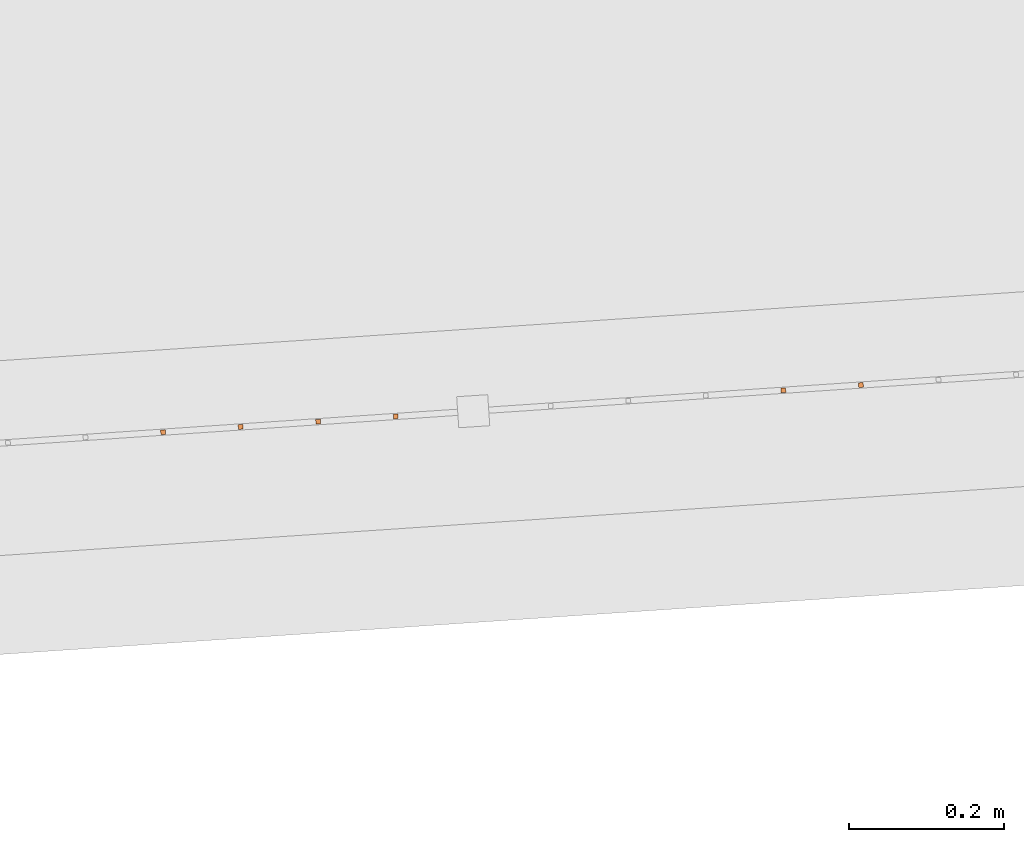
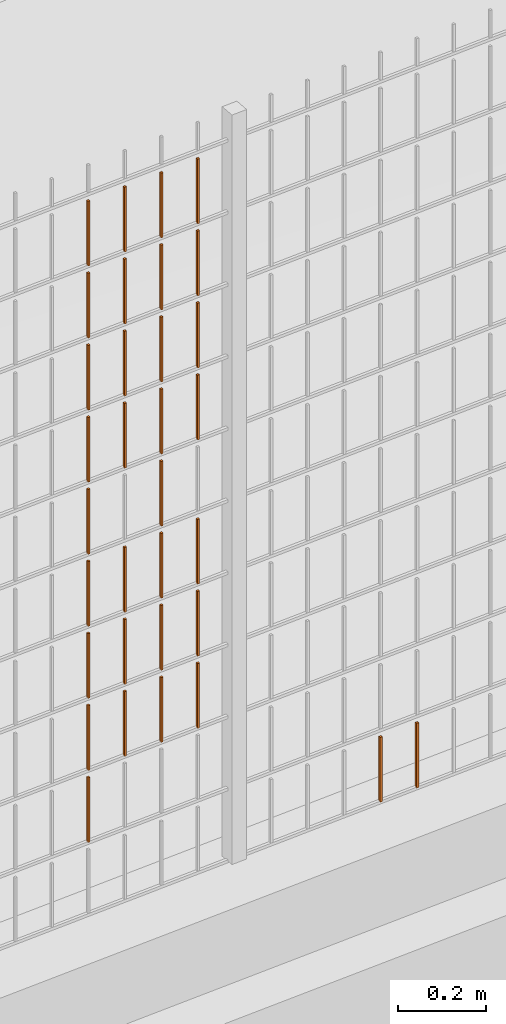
# One storey, part 329 of 1809: 33 proxies, 1 element without a shape of its own.
"""IFC2X3 building model written with IfcOpenShell, lengths in millimetres."""

import ifcopenshell
import ifcopenshell.guid

model = None  # the IFC model being written
_history = None  # IfcOwnerHistory: only IFC2X3 demands one
_inside = {}  # id of a spatial element -> (the spatial element, [elements in it])
_under = {}  # id of a project, library or spatial element -> (it, [spatial elements below it])
_declared = {}  # id of a project -> (the project, [libraries it declares])
_typed = {}  # id of a type object -> (the type object, [elements of that type])
_made_of = {}  # id of a material, layer set ... -> (it, [elements and type objects made of it])


def new_model(schema):
    """Start an empty IFC model of exactly this schema.

    Asked for "IFC4X3", IfcOpenShell would pick the latest addendum, in which some entities
    have other attributes; the version numbers below select the first issue.
    IFC2X3 requires an IfcOwnerHistory on every rooted entity: one is made here for all.
    """
    global model, _history
    if schema == "IFC4X3":
        model = ifcopenshell.file(schema_version=(4, 3, 0, 0))
    else:
        model = ifcopenshell.file(schema=schema)
    _inside.clear()
    _under.clear()
    _declared.clear()
    _typed.clear()
    _made_of.clear()
    _history = None
    if model.schema == "IFC2X3":
        org = make("IfcOrganization", Name="unknown")
        user = make(
            "IfcPersonAndOrganization",
            ThePerson=make("IfcPerson", FamilyName="unknown"),
            TheOrganization=org,
        )
        app = make(
            "IfcApplication",
            ApplicationDeveloper=org,
            Version="unknown",
            ApplicationFullName="unknown",
            ApplicationIdentifier="unknown",
        )
        _history = make(
            "IfcOwnerHistory",
            OwningUser=user,
            OwningApplication=app,
            ChangeAction="ADDED",
            CreationDate=0,
        )
    return model


def make(cls, **values):
    """One entity of the class cls with the attributes given. An attribute that is None is left unset."""
    return model.create_entity(
        cls, **{name: value for name, value in values.items() if value is not None}
    )


def entity(cls, *values):
    """Any entity or typed value of the class cls, its attributes in the order of the schema. None: left unset."""
    e = model.create_entity(cls)
    for i, value in enumerate(values):
        if value is not None:
            e[i] = value
    return e


def rooted(cls, **values):
    """An entity with a GlobalId (a new one), such as an element, a storey or a relation."""
    return make(cls, GlobalId=ifcopenshell.guid.new(), OwnerHistory=_history, **values)


def si_unit(unit_type, name, prefix=None):
    """IfcSIUnit, for example si_unit("LENGTHUNIT", "METRE", prefix="MILLI")."""
    return make("IfcSIUnit", UnitType=unit_type, Prefix=prefix, Name=name)


def converted_unit(unit_type, name, factor, base, dimensions=None, offset=None):
    """IfcConversionBasedUnit, such as the inch: factor (a typed value) times the base unit."""
    return make(
        "IfcConversionBasedUnit"
        if offset is None
        else "IfcConversionBasedUnitWithOffset",
        ConversionOffset=offset,
        Dimensions=None
        if dimensions is None
        else entity("IfcDimensionalExponents", *dimensions),
        UnitType=unit_type,
        Name=name,
        ConversionFactor=make(
            "IfcMeasureWithUnit", ValueComponent=factor, UnitComponent=base
        ),
    )


def derived_unit(unit_type, elements):
    """IfcDerivedUnit: a product of units, each with its exponent."""
    return make(
        "IfcDerivedUnit",
        Elements=[
            make("IfcDerivedUnitElement", Unit=unit, Exponent=power)
            for unit, power in elements
        ],
        UnitType=unit_type,
    )


def money_unit(currency):
    """IfcMonetaryUnit."""
    return make("IfcMonetaryUnit", Currency=currency)


def assignment(units):
    """IfcUnitAssignment: the units of a project."""
    return None if units is None else make("IfcUnitAssignment", Units=units)


def point(xyz):
    """IfcCartesianPoint."""
    return None if xyz is None else make("IfcCartesianPoint", Coordinates=xyz)


def direction(xyz):
    """IfcDirection."""
    return None if xyz is None else make("IfcDirection", DirectionRatios=xyz)


def frame(location, z_axis=None, x_axis=None):
    """IfcAxis2Placement3D, a coordinate frame: its origin and axes. An axis left out is left unset."""
    return make(
        "IfcAxis2Placement3D",
        Location=point(location),
        Axis=direction(z_axis),
        RefDirection=direction(x_axis),
    )


def origin_with_axes():
    """The frame at (0, 0, 0) with the z axis (0, 0, 1) and the x axis (1, 0, 0) written out."""
    return frame((0.0, 0.0, 0.0), z_axis=(0.0, 0.0, 1.0), x_axis=(1.0, 0.0, 0.0))


def place(relative_to, where):
    """IfcLocalPlacement: puts the frame where relative to a parent placement (None: the world)."""
    return make(
        "IfcLocalPlacement", PlacementRelTo=relative_to, RelativePlacement=where
    )


def context(
    kind, dimensions, precision=None, world=None, true_north=None, identifier=None
):
    """IfcGeometricRepresentationContext, for example the 3D "Model" context."""
    return make(
        "IfcGeometricRepresentationContext",
        ContextIdentifier=identifier,
        ContextType=kind,
        CoordinateSpaceDimension=dimensions,
        Precision=precision,
        WorldCoordinateSystem=world,
        TrueNorth=true_north,
    )


def subcontext(parent, identifier, kind, view, scale=None):
    """IfcGeometricRepresentationSubContext, for example "Body" below "Model"."""
    return make(
        "IfcGeometricRepresentationSubContext",
        ContextIdentifier=identifier,
        ContextType=kind,
        ParentContext=parent,
        TargetScale=scale,
        TargetView=view,
    )


def project(units=None, contexts=None):
    """IfcProject with its units and contexts."""
    return rooted(
        "IfcProject",
        Name="project",
        RepresentationContexts=contexts,
        UnitsInContext=assignment(units),
    )


def spatial(cls, under=None, at=None, **own):
    """A site, building, storey or space (cls), placed at a placement, below another one or the project."""
    s = rooted(cls, ObjectPlacement=at, **own)
    if under is not None:
        _under.setdefault(under.id(), (under, []))[1].append(s)
    return s


def faces_of(points, faces, orient=None, outer=None):
    """IfcFace entities. A face is a list of loops; a loop is a list of indices into points, from 0.

    orient and outer hold one flag for each loop. By default every Orientation is true, the
    first loop of a face is its IfcFaceOuterBound and the others are IfcFaceBound.
    """
    made = []
    for i, loops in enumerate(faces):
        bounds = []
        for j, loop in enumerate(loops):
            is_outer = j == 0 if outer is None else outer[i][j]
            bounds.append(
                make(
                    "IfcFaceOuterBound" if is_outer else "IfcFaceBound",
                    Bound=make("IfcPolyLoop", Polygon=[points[k] for k in loop]),
                    Orientation=True if orient is None else orient[i][j],
                )
            )
        made.append(make("IfcFace", Bounds=bounds))
    return made


def faceted_brep(points, faces, orient=None, outer=None, voids=None):
    """IfcFacetedBrep: a solid bounded by flat faces; with voids (closed shells), ...WithVoids."""
    shared = [point(p) for p in points]
    hull = make("IfcClosedShell", CfsFaces=faces_of(shared, faces, orient, outer))
    if voids is None:
        return make("IfcFacetedBrep", Outer=hull)
    return make(
        "IfcFacetedBrepWithVoids",
        Outer=hull,
        Voids=[
            make(cls, CfsFaces=faces_of(shared, fs, o, b)) for cls, fs, o, b in voids
        ],
    )


def shape(context_of_items, identifier, shape_type, items):
    """IfcShapeRepresentation: the items that make up one representation, for example the "Body"."""
    return make(
        "IfcShapeRepresentation",
        ContextOfItems=context_of_items,
        RepresentationIdentifier=identifier,
        RepresentationType=shape_type,
        Items=items,
    )


def source(mapping_origin, context_of_items, identifier, shape_type, items):
    """IfcRepresentationMap: a shape defined once, which mapped items show again and again."""
    return make(
        "IfcRepresentationMap",
        MappingOrigin=mapping_origin,
        MappedRepresentation=shape(context_of_items, identifier, shape_type, items),
    )


def transform(
    local_origin,
    x_axis=None,
    y_axis=None,
    z_axis=None,
    scale=None,
    scale2=None,
    scale3=None,
    uniform=True,
):
    """IfcCartesianTransformationOperator3D, or its non-uniform kind. x_axis, y_axis, z_axis: its Axis1, 2, 3."""
    if uniform:
        return make(
            "IfcCartesianTransformationOperator3D",
            Axis1=direction(x_axis),
            Axis2=direction(y_axis),
            LocalOrigin=point(local_origin),
            Scale=scale,
            Axis3=direction(z_axis),
        )
    return make(
        "IfcCartesianTransformationOperator3DnonUniform",
        Axis1=direction(x_axis),
        Axis2=direction(y_axis),
        LocalOrigin=point(local_origin),
        Scale=scale,
        Axis3=direction(z_axis),
        Scale2=scale2,
        Scale3=scale3,
    )


def mapped(mapping_source, mapping_target):
    """IfcMappedItem: shows the shape of a source again, moved by a transform."""
    return make(
        "IfcMappedItem", MappingSource=mapping_source, MappingTarget=mapping_target
    )


def material(Name=None, Category=None):
    """IfcMaterial."""
    return make("IfcMaterial", Name=Name, Category=Category)


def made_of(thing, what):
    """Note that an element or type object is made of a material, layer set ...; save() writes the relation."""
    if what is not None:
        _made_of.setdefault(what.id(), (what, []))[1].append(thing)
    return thing


def type_object(cls, material=None, **own):
    """A type object (cls), such as IfcWallType, which elements share."""
    return made_of(rooted(cls, **own), material)


def element(
    cls,
    number,
    at=None,
    inside=None,
    cuts=None,
    type_object=None,
    material=None,
    context=None,
    identifier="Body",
    shape_type=None,
    held_by="IfcProductDefinitionShape",
    body=None,
    shapes=None,
    **own,
):
    """One element of the class cls, such as IfcWall. Its Tag is "e" and its number.

    at: its placement. inside: the storey or other place that contains it. cuts: it is an
    opening in that element (IfcRelVoidsElement). A single representation is given by context,
    identifier, shape_type and body (its items); several are given by shapes. held_by: the class
    of the entity that holds the representations. save() writes the other relations.
    """
    e = rooted(cls, Tag="e%d" % number, ObjectPlacement=at, **own)
    if body is not None:
        shapes = [shape(context, identifier, shape_type, body)]
    if shapes is not None:
        e.Representation = make(held_by, Representations=shapes)
    if inside is not None:
        _inside.setdefault(inside.id(), (inside, []))[1].append(e)
    if cuts is not None:
        rooted(
            "IfcRelVoidsElement", RelatingBuildingElement=cuts, RelatedOpeningElement=e
        )
    if type_object is not None:
        _typed.setdefault(type_object.id(), (type_object, []))[1].append(e)
    return made_of(e, material)


def aggregate(whole, parts):
    """IfcRelAggregates: a whole, such as a stair, and the parts it consists of."""
    return rooted("IfcRelAggregates", RelatingObject=whole, RelatedObjects=parts)


def save(model, path):
    """Write the relations noted so far, then the file.

    IfcRelAggregates (storeys below a building ...), IfcRelContainedInSpatialStructure (elements
    in a storey), IfcRelDefinesByType, IfcRelAssociatesMaterial and IfcRelDeclares: one each for
    every whole, place, type object, material and project.
    """
    for whole, parts in _under.values():
        aggregate(whole, parts)
    for where, things in _inside.values():
        rooted(
            "IfcRelContainedInSpatialStructure",
            RelatedElements=things,
            RelatingStructure=where,
        )
    for kind, things in _typed.values():
        rooted("IfcRelDefinesByType", RelatedObjects=things, RelatingType=kind)
    for what, things in _made_of.values():
        rooted("IfcRelAssociatesMaterial", RelatedObjects=things, RelatingMaterial=what)
    for by, libraries in _declared.values():
        rooted("IfcRelDeclares", RelatingContext=by, RelatedDefinitions=libraries)
    model.write(path)


model = new_model("IFC2X3")

# Units and contexts
model_context = context("Model", 3, precision=0.01, world=origin_with_axes(), true_north=direction((0.0, 1.0)))
body_context = subcontext(model_context, "Body", "Model", "MODEL_VIEW")
ifc_project = project(units=[si_unit("LENGTHUNIT", "METRE", prefix="MILLI"), si_unit("AREAUNIT", "SQUARE_METRE"), si_unit("VOLUMEUNIT", "CUBIC_METRE"), converted_unit("PLANEANGLEUNIT", "DEGREE", entity("IfcPlaneAngleMeasure", 0.0174532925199), si_unit("PLANEANGLEUNIT", "RADIAN"), dimensions=[0, 0, 0, 0, 0, 0, 0]), si_unit("SOLIDANGLEUNIT", "STERADIAN"), money_unit("EUR"), converted_unit("TIMEUNIT", "Year", entity("IfcTimeMeasure", 31556926.0), si_unit("TIMEUNIT", "SECOND"), dimensions=[0, 0, 1, 0, 0, 0, 0]), si_unit("MASSUNIT", "GRAM", prefix="KILO"), si_unit("THERMODYNAMICTEMPERATUREUNIT", "DEGREE_CELSIUS"), si_unit("LUMINOUSINTENSITYUNIT", "LUMEN"), si_unit("ENERGYUNIT", "JOULE", prefix="MEGA"), derived_unit("THERMALCONDUCTANCEUNIT", [(si_unit("POWERUNIT", "WATT"), 1), (si_unit("LENGTHUNIT", "METRE"), -1), (si_unit("THERMODYNAMICTEMPERATUREUNIT", "KELVIN"), -1)]), derived_unit("SPECIFICHEATCAPACITYUNIT", [(si_unit("ENERGYUNIT", "JOULE"), 1), (si_unit("MASSUNIT", "GRAM", prefix="KILO"), -1), (si_unit("THERMODYNAMICTEMPERATUREUNIT", "KELVIN"), -1)]), derived_unit("MASSDENSITYUNIT", [(si_unit("MASSUNIT", "GRAM", prefix="KILO"), 1), (si_unit("VOLUMEUNIT", "CUBIC_METRE"), -1)])], contexts=[model_context])

# Site, building, storey
site_placement = place(None, origin_with_axes())
site = spatial("IfcSite", under=ifc_project, at=site_placement, Name="Politse- ja Piirivalveameti ning Päästeameti ühishoone", CompositionType="ELEMENT")
building_placement = place(site_placement, origin_with_axes())
building = spatial("IfcBuilding", under=site, at=building_placement, Name="Politse- ja Piirivalveameti ning Päästeameti ühishoone", CompositionType="ELEMENT")
storey_placement = place(building_placement, origin_with_axes())
storey = spatial("IfcBuildingStorey", under=building, at=storey_placement, Name="Esimene korrus", CompositionType="ELEMENT", Elevation=0.0)

# Proxies
building_element_proxy_type_1 = type_object("IfcBuildingElementProxyType", Name="Railing Type", PredefinedType="NOTDEFINED")
proxy_1_placement = place(storey_placement, frame((89252.001212, -29183.4766571, 203.661247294), z_axis=(0.0, 0.0, 1.0), x_axis=(1.0, 0.0, 0.0)))
proxy_1 = element("IfcBuildingElementProxy", 1, at=proxy_1_placement, inside=storey, type_object=building_element_proxy_type_1, Name="PIIRDEAED")
ifc_material = material(Name="ET-03_Raud")
building_element_proxy_type_2 = type_object("IfcBuildingElementProxyType", Name="IfcBuildingElementProxy", PredefinedType="NOTDEFINED")
shared_shape_1 = source(origin_with_axes(), body_context, "Body", "Brep", [
    faceted_brep([(3.0, 3.0, -0.000752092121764), (-3.0, 3.0, -0.000752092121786), (-3.0, 3.0, 179.99926046), (3.0, 3.0, 179.99926046), (3.0, -3.0, 0.000752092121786), (-3.0, -3.0, 0.000752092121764), (-3.0, -3.0, 180.000764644), (3.0, -3.0, 180.000764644)], [[[0, 1, 2, 3]], [[0, 4, 5, 1]], [[1, 5, 6, 2]], [[3, 2, 6, 7]], [[4, 0, 3, 7]], [[5, 4, 7, 6]]]),
])
proxy_2_placement = place(proxy_1_placement, frame((-34248.6472822, -19611.1416358, 18.6287749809), z_axis=(0.0, 0.0, 1.0), x_axis=(1.0, 0.0, 0.0)))
proxy_2 = element("IfcBuildingElementProxy", 2, at=proxy_2_placement, type_object=building_element_proxy_type_2, material=ifc_material, Name="BALUSTER - 001", context=body_context, shape_type="MappedRepresentation", body=[
    mapped(shared_shape_1, transform((0.0, 0.0, 0.0), x_axis=(-0.0673926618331, 0.997726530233, 0.0), y_axis=(-0.997726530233, -0.0673926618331, 0.0), z_axis=(0.0, 0.0, 1.0))),
])
shared_shape_2 = source(origin_with_axes(), body_context, "Body", "Brep", [
    faceted_brep([(3.0, 3.0, -0.000752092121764), (-3.0, 3.0, -0.000752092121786), (-3.0, 3.0, 179.99926046), (3.0, 3.0, 179.99926046), (3.0, -3.0, 0.000752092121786), (-3.0, -3.0, 0.000752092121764), (-3.0, -3.0, 180.000764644), (3.0, -3.0, 180.000764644)], [[[0, 1, 2, 3]], [[0, 4, 5, 1]], [[1, 5, 6, 2]], [[3, 2, 6, 7]], [[4, 0, 3, 7]], [[5, 4, 7, 6]]]),
])
proxy_3_placement = place(proxy_1_placement, frame((-34847.2832003, -19651.5772329, 418.478356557), z_axis=(0.0, 0.0, 1.0), x_axis=(1.0, 0.0, 0.0)))
proxy_3 = element("IfcBuildingElementProxy", 3, at=proxy_3_placement, type_object=building_element_proxy_type_2, material=ifc_material, Name="BALUSTER - 001", context=body_context, shape_type="MappedRepresentation", body=[
    mapped(shared_shape_2, transform((0.0, 0.0, 0.0), x_axis=(-0.0673926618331, 0.997726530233, 0.0), y_axis=(-0.997726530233, -0.0673926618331, 0.0), z_axis=(0.0, 0.0, 1.0))),
])
shared_shape_3 = source(origin_with_axes(), body_context, "Body", "Brep", [
    faceted_brep([(3.0, 3.0, -0.000752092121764), (-3.0, 3.0, -0.000752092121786), (-3.0, 3.0, 179.99926046), (3.0, 3.0, 179.99926046), (3.0, -3.0, 0.000752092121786), (-3.0, -3.0, 0.000752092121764), (-3.0, -3.0, 180.000764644), (3.0, -3.0, 180.000764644)], [[[0, 1, 2, 3]], [[0, 4, 5, 1]], [[1, 5, 6, 2]], [[3, 2, 6, 7]], [[4, 0, 3, 7]], [[5, 4, 7, 6]]]),
])
proxy_4_placement = place(proxy_1_placement, frame((-34847.2832003, -19651.5772329, 818.478356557), z_axis=(0.0, 0.0, 1.0), x_axis=(1.0, 0.0, 0.0)))
proxy_4 = element("IfcBuildingElementProxy", 4, at=proxy_4_placement, type_object=building_element_proxy_type_2, material=ifc_material, Name="BALUSTER - 001", context=body_context, shape_type="MappedRepresentation", body=[
    mapped(shared_shape_3, transform((0.0, 0.0, 0.0), x_axis=(-0.0673926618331, 0.997726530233, 0.0), y_axis=(-0.997726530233, -0.0673926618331, 0.0), z_axis=(0.0, 0.0, 1.0))),
])
shared_shape_4 = source(origin_with_axes(), body_context, "Body", "Brep", [
    faceted_brep([(3.0, 3.0, -0.000752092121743), (-3.0, 3.0, -0.000752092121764), (-3.0, 3.0, 179.99926046), (3.0, 3.0, 179.99926046), (3.0, -3.0, 0.000752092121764), (-3.0, -3.0, 0.000752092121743), (-3.0, -3.0, 180.000764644), (3.0, -3.0, 180.000764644)], [[[0, 1, 2, 3]], [[0, 4, 5, 1]], [[1, 5, 6, 2]], [[3, 2, 6, 7]], [[4, 0, 3, 7]], [[5, 4, 7, 6]]]),
])
proxy_5_placement = place(proxy_1_placement, frame((-35046.8285064, -19665.0557653, 1218.42821708), z_axis=(0.0, 0.0, 1.0), x_axis=(1.0, 0.0, 0.0)))
proxy_5 = element("IfcBuildingElementProxy", 5, at=proxy_5_placement, type_object=building_element_proxy_type_2, material=ifc_material, Name="BALUSTER - 001", context=body_context, shape_type="MappedRepresentation", body=[
    mapped(shared_shape_4, transform((0.0, 0.0, 0.0), x_axis=(-0.0673926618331, 0.997726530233, 0.0), y_axis=(-0.997726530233, -0.0673926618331, 0.0), z_axis=(0.0, 0.0, 1.0))),
])
shared_shape_5 = source(origin_with_axes(), body_context, "Body", "Brep", [
    faceted_brep([(3.0, 3.0, -0.000752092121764), (-3.0, 3.0, -0.000752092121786), (-3.0, 3.0, 179.99926046), (3.0, 3.0, 179.99926046), (3.0, -3.0, 0.000752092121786), (-3.0, -3.0, 0.000752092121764), (-3.0, -3.0, 180.000764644), (3.0, -3.0, 180.000764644)], [[[0, 1, 2, 3]], [[0, 4, 5, 1]], [[1, 5, 6, 2]], [[3, 2, 6, 7]], [[4, 0, 3, 7]], [[5, 4, 7, 6]]]),
])
proxy_6_placement = place(proxy_1_placement, frame((-34847.2832003, -19651.5772329, 618.478356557), z_axis=(0.0, 0.0, 1.0), x_axis=(1.0, 0.0, 0.0)))
proxy_6 = element("IfcBuildingElementProxy", 6, at=proxy_6_placement, type_object=building_element_proxy_type_2, material=ifc_material, Name="BALUSTER - 001", context=body_context, shape_type="MappedRepresentation", body=[
    mapped(shared_shape_5, transform((0.0, 0.0, 0.0), x_axis=(-0.0673926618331, 0.997726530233, 0.0), y_axis=(-0.997726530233, -0.0673926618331, 0.0), z_axis=(0.0, 0.0, 1.0))),
])
shared_shape_6 = source(origin_with_axes(), body_context, "Body", "Brep", [
    faceted_brep([(3.0, 3.0, -0.000752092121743), (-3.0, 3.0, -0.000752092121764), (-3.0, 3.0, 179.99926046), (3.0, 3.0, 179.99926046), (3.0, -3.0, 0.000752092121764), (-3.0, -3.0, 0.000752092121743), (-3.0, -3.0, 180.000764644), (3.0, -3.0, 180.000764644)], [[[0, 1, 2, 3]], [[0, 4, 5, 1]], [[1, 5, 6, 2]], [[3, 2, 6, 7]], [[4, 0, 3, 7]], [[5, 4, 7, 6]]]),
])
proxy_7_placement = place(proxy_1_placement, frame((-35046.8285064, -19665.0557653, 1418.42821708), z_axis=(0.0, 0.0, 1.0), x_axis=(1.0, 0.0, 0.0)))
proxy_7 = element("IfcBuildingElementProxy", 7, at=proxy_7_placement, type_object=building_element_proxy_type_2, material=ifc_material, Name="BALUSTER - 001", context=body_context, shape_type="MappedRepresentation", body=[
    mapped(shared_shape_6, transform((0.0, 0.0, 0.0), x_axis=(-0.0673926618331, 0.997726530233, 0.0), y_axis=(-0.997726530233, -0.0673926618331, 0.0), z_axis=(0.0, 0.0, 1.0))),
])
proxy_8_placement = place(proxy_1_placement, frame((-35046.8285064, -19665.0557653, 1618.42821708), z_axis=(0.0, 0.0, 1.0), x_axis=(1.0, 0.0, 0.0)))
proxy_8 = element("IfcBuildingElementProxy", 8, at=proxy_8_placement, type_object=building_element_proxy_type_2, material=ifc_material, Name="BALUSTER - 001", context=body_context, shape_type="MappedRepresentation", body=[
    mapped(shared_shape_6, transform((0.0, 0.0, 0.0), x_axis=(-0.0673926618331, 0.997726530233, 0.0), y_axis=(-0.997726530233, -0.0673926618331, 0.0), z_axis=(0.0, 0.0, 1.0))),
])
shared_shape_7 = source(origin_with_axes(), body_context, "Body", "Brep", [
    faceted_brep([(3.0, 3.0, -0.000752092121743), (-3.0, 3.0, -0.000752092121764), (-3.0, 3.0, 179.99926046), (3.0, 3.0, 179.99926046), (3.0, -3.0, 0.000752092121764), (-3.0, -3.0, 0.000752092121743), (-3.0, -3.0, 180.000764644), (3.0, -3.0, 180.000764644)], [[[0, 1, 2, 3]], [[0, 4, 5, 1]], [[1, 5, 6, 2]], [[3, 2, 6, 7]], [[4, 0, 3, 7]], [[5, 4, 7, 6]]]),
])
proxy_9_placement = place(proxy_1_placement, frame((-35046.8285064, -19665.0557653, 1818.42821708), z_axis=(0.0, 0.0, 1.0), x_axis=(1.0, 0.0, 0.0)))
proxy_9 = element("IfcBuildingElementProxy", 9, at=proxy_9_placement, type_object=building_element_proxy_type_2, material=ifc_material, Name="BALUSTER - 001", context=body_context, shape_type="MappedRepresentation", body=[
    mapped(shared_shape_7, transform((0.0, 0.0, 0.0), x_axis=(-0.0673926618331, 0.997726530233, 0.0), y_axis=(-0.997726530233, -0.0673926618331, 0.0), z_axis=(0.0, 0.0, 1.0))),
])
shared_shape_8 = source(origin_with_axes(), body_context, "Body", "Brep", [
    faceted_brep([(3.0, 3.0, -0.000752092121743), (-3.0, 3.0, -0.000752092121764), (-3.0, 3.0, 179.99926046), (3.0, 3.0, 179.99926046), (3.0, -3.0, 0.000752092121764), (-3.0, -3.0, 0.000752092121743), (-3.0, -3.0, 180.000764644), (3.0, -3.0, 180.000764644)], [[[0, 1, 2, 3]], [[0, 4, 5, 1]], [[1, 5, 6, 2]], [[3, 2, 6, 7]], [[4, 0, 3, 7]], [[5, 4, 7, 6]]]),
])
proxy_10_placement = place(proxy_1_placement, frame((-34947.0558533, -19658.3164991, 1218.45328682), z_axis=(0.0, 0.0, 1.0), x_axis=(1.0, 0.0, 0.0)))
proxy_10 = element("IfcBuildingElementProxy", 10, at=proxy_10_placement, type_object=building_element_proxy_type_2, material=ifc_material, Name="BALUSTER - 001", context=body_context, shape_type="MappedRepresentation", body=[
    mapped(shared_shape_8, transform((0.0, 0.0, 0.0), x_axis=(-0.0673926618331, 0.997726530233, 0.0), y_axis=(-0.997726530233, -0.0673926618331, 0.0), z_axis=(0.0, 0.0, 1.0))),
])
shared_shape_9 = source(origin_with_axes(), body_context, "Body", "Brep", [
    faceted_brep([(3.0, 3.0, -0.000752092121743), (-3.0, 3.0, -0.000752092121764), (-3.0, 3.0, 179.99926046), (3.0, 3.0, 179.99926046), (3.0, -3.0, 0.000752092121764), (-3.0, -3.0, 0.000752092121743), (-3.0, -3.0, 180.000764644), (3.0, -3.0, 180.000764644)], [[[0, 1, 2, 3]], [[0, 4, 5, 1]], [[1, 5, 6, 2]], [[3, 2, 6, 7]], [[4, 0, 3, 7]], [[5, 4, 7, 6]]]),
])
proxy_11_placement = place(proxy_1_placement, frame((-34947.0558533, -19658.3164991, 1818.45328682), z_axis=(0.0, 0.0, 1.0), x_axis=(1.0, 0.0, 0.0)))
proxy_11 = element("IfcBuildingElementProxy", 11, at=proxy_11_placement, type_object=building_element_proxy_type_2, material=ifc_material, Name="BALUSTER - 001", context=body_context, shape_type="MappedRepresentation", body=[
    mapped(shared_shape_9, transform((0.0, 0.0, 0.0), x_axis=(-0.0673926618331, 0.997726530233, 0.0), y_axis=(-0.997726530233, -0.0673926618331, 0.0), z_axis=(0.0, 0.0, 1.0))),
])
shared_shape_10 = source(origin_with_axes(), body_context, "Body", "Brep", [
    faceted_brep([(3.0, 3.0, -0.000752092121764), (-3.0, 3.0, -0.000752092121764), (-3.0, 3.0, 179.99926046), (3.0, 3.0, 179.99926046), (3.0, -3.0, 0.000752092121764), (-3.0, -3.0, 0.000752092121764), (-3.0, -3.0, 180.000764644), (3.0, -3.0, 180.000764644)], [[[0, 1, 2, 3]], [[0, 4, 5, 1]], [[1, 5, 6, 2]], [[3, 2, 6, 7]], [[4, 0, 3, 7]], [[5, 4, 7, 6]]]),
])
proxy_12_placement = place(proxy_1_placement, frame((-34947.0558533, -19658.3164991, 618.453286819), z_axis=(0.0, 0.0, 1.0), x_axis=(1.0, 0.0, 0.0)))
proxy_12 = element("IfcBuildingElementProxy", 12, at=proxy_12_placement, type_object=building_element_proxy_type_2, material=ifc_material, Name="BALUSTER - 001", context=body_context, shape_type="MappedRepresentation", body=[
    mapped(shared_shape_10, transform((0.0, 0.0, 0.0), x_axis=(-0.0673926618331, 0.997726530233, 0.0), y_axis=(-0.997726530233, -0.0673926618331, 0.0), z_axis=(0.0, 0.0, 1.0))),
])
proxy_13_placement = place(proxy_1_placement, frame((-34847.2832003, -19651.5772329, 1218.47835656), z_axis=(0.0, 0.0, 1.0), x_axis=(1.0, 0.0, 0.0)))
proxy_13 = element("IfcBuildingElementProxy", 13, at=proxy_13_placement, type_object=building_element_proxy_type_2, material=ifc_material, Name="BALUSTER - 001", context=body_context, shape_type="MappedRepresentation", body=[
    mapped(shared_shape_10, transform((0.0, 0.0, 0.0), x_axis=(-0.0673926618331, 0.997726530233, 0.0), y_axis=(-0.997726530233, -0.0673926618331, 0.0), z_axis=(0.0, 0.0, 1.0))),
])
shared_shape_11 = source(origin_with_axes(), body_context, "Body", "Brep", [
    faceted_brep([(3.0, 3.0, -0.000752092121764), (-3.0, 3.0, -0.000752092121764), (-3.0, 3.0, 179.99926046), (3.0, 3.0, 179.99926046), (3.0, -3.0, 0.000752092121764), (-3.0, -3.0, 0.000752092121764), (-3.0, -3.0, 180.000764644), (3.0, -3.0, 180.000764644)], [[[0, 1, 2, 3]], [[0, 4, 5, 1]], [[1, 5, 6, 2]], [[3, 2, 6, 7]], [[4, 0, 3, 7]], [[5, 4, 7, 6]]]),
])
proxy_14_placement = place(proxy_1_placement, frame((-34947.0558533, -19658.3164991, 418.453286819), z_axis=(0.0, 0.0, 1.0), x_axis=(1.0, 0.0, 0.0)))
proxy_14 = element("IfcBuildingElementProxy", 14, at=proxy_14_placement, type_object=building_element_proxy_type_2, material=ifc_material, Name="BALUSTER - 001", context=body_context, shape_type="MappedRepresentation", body=[
    mapped(shared_shape_11, transform((0.0, 0.0, 0.0), x_axis=(-0.0673926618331, 0.997726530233, 0.0), y_axis=(-0.997726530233, -0.0673926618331, 0.0), z_axis=(0.0, 0.0, 1.0))),
])
proxy_15_placement = place(proxy_1_placement, frame((-34847.2832003, -19651.5772329, 1418.47835656), z_axis=(0.0, 0.0, 1.0), x_axis=(1.0, 0.0, 0.0)))
proxy_15 = element("IfcBuildingElementProxy", 15, at=proxy_15_placement, type_object=building_element_proxy_type_2, material=ifc_material, Name="BALUSTER - 001", context=body_context, shape_type="MappedRepresentation", body=[
    mapped(shared_shape_11, transform((0.0, 0.0, 0.0), x_axis=(-0.0673926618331, 0.997726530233, 0.0), y_axis=(-0.997726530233, -0.0673926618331, 0.0), z_axis=(0.0, 0.0, 1.0))),
])
shared_shape_12 = source(origin_with_axes(), body_context, "Body", "Brep", [
    faceted_brep([(3.0, 3.0, -0.000752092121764), (-3.0, 3.0, -0.000752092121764), (-3.0, 3.0, 179.99926046), (3.0, 3.0, 179.99926046), (3.0, -3.0, 0.000752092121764), (-3.0, -3.0, 0.000752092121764), (-3.0, -3.0, 180.000764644), (3.0, -3.0, 180.000764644)], [[[0, 1, 2, 3]], [[0, 4, 5, 1]], [[1, 5, 6, 2]], [[3, 2, 6, 7]], [[4, 0, 3, 7]], [[5, 4, 7, 6]]]),
])
proxy_16_placement = place(proxy_1_placement, frame((-34947.0558533, -19658.3164991, 818.453286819), z_axis=(0.0, 0.0, 1.0), x_axis=(1.0, 0.0, 0.0)))
proxy_16 = element("IfcBuildingElementProxy", 16, at=proxy_16_placement, type_object=building_element_proxy_type_2, material=ifc_material, Name="BALUSTER - 001", context=body_context, shape_type="MappedRepresentation", body=[
    mapped(shared_shape_12, transform((0.0, 0.0, 0.0), x_axis=(-0.0673926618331, 0.997726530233, 0.0), y_axis=(-0.997726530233, -0.0673926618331, 0.0), z_axis=(0.0, 0.0, 1.0))),
])
shared_shape_13 = source(origin_with_axes(), body_context, "Body", "Brep", [
    faceted_brep([(3.0, 3.0, -0.000752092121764), (-3.0, 3.0, -0.000752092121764), (-3.0, 3.0, 179.99926046), (3.0, 3.0, 179.99926046), (3.0, -3.0, 0.000752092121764), (-3.0, -3.0, 0.000752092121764), (-3.0, -3.0, 180.000764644), (3.0, -3.0, 180.000764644)], [[[0, 1, 2, 3]], [[0, 4, 5, 1]], [[1, 5, 6, 2]], [[3, 2, 6, 7]], [[4, 0, 3, 7]], [[5, 4, 7, 6]]]),
])
proxy_17_placement = place(proxy_1_placement, frame((-35146.6011594, -19671.7950314, 618.403147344), z_axis=(0.0, 0.0, 1.0), x_axis=(1.0, 0.0, 0.0)))
proxy_17 = element("IfcBuildingElementProxy", 17, at=proxy_17_placement, type_object=building_element_proxy_type_2, material=ifc_material, Name="BALUSTER - 001", context=body_context, shape_type="MappedRepresentation", body=[
    mapped(shared_shape_13, transform((0.0, 0.0, 0.0), x_axis=(-0.0673926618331, 0.997726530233, 0.0), y_axis=(-0.997726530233, -0.0673926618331, 0.0), z_axis=(0.0, 0.0, 1.0))),
])
shared_shape_14 = source(origin_with_axes(), body_context, "Body", "Brep", [
    faceted_brep([(3.0, 3.0, -0.000752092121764), (-3.0, 3.0, -0.000752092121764), (-3.0, 3.0, 179.99926046), (3.0, 3.0, 179.99926046), (3.0, -3.0, 0.000752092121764), (-3.0, -3.0, 0.000752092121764), (-3.0, -3.0, 180.000764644), (3.0, -3.0, 180.000764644)], [[[0, 1, 2, 3]], [[0, 4, 5, 1]], [[1, 5, 6, 2]], [[3, 2, 6, 7]], [[4, 0, 3, 7]], [[5, 4, 7, 6]]]),
])
proxy_18_placement = place(proxy_1_placement, frame((-34847.2832003, -19651.5772329, 1818.47835656), z_axis=(0.0, 0.0, 1.0), x_axis=(1.0, 0.0, 0.0)))
proxy_18 = element("IfcBuildingElementProxy", 18, at=proxy_18_placement, type_object=building_element_proxy_type_2, material=ifc_material, Name="BALUSTER - 001", context=body_context, shape_type="MappedRepresentation", body=[
    mapped(shared_shape_14, transform((0.0, 0.0, 0.0), x_axis=(-0.0673926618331, 0.997726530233, 0.0), y_axis=(-0.997726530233, -0.0673926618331, 0.0), z_axis=(0.0, 0.0, 1.0))),
])
shared_shape_15 = source(origin_with_axes(), body_context, "Body", "Brep", [
    faceted_brep([(3.0, 3.0, -0.000752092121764), (-3.0, 3.0, -0.000752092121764), (-3.0, 3.0, 179.99926046), (3.0, 3.0, 179.99926046), (3.0, -3.0, 0.000752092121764), (-3.0, -3.0, 0.000752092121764), (-3.0, -3.0, 180.000764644), (3.0, -3.0, 180.000764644)], [[[0, 1, 2, 3]], [[0, 4, 5, 1]], [[1, 5, 6, 2]], [[3, 2, 6, 7]], [[4, 0, 3, 7]], [[5, 4, 7, 6]]]),
])
proxy_19_placement = place(proxy_1_placement, frame((-34348.4199352, -19617.880902, 18.6037052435), z_axis=(0.0, 0.0, 1.0), x_axis=(1.0, 0.0, 0.0)))
proxy_19 = element("IfcBuildingElementProxy", 19, at=proxy_19_placement, type_object=building_element_proxy_type_2, material=ifc_material, Name="BALUSTER - 001", context=body_context, shape_type="MappedRepresentation", body=[
    mapped(shared_shape_15, transform((0.0, 0.0, 0.0), x_axis=(-0.0673926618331, 0.997726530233, 0.0), y_axis=(-0.997726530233, -0.0673926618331, 0.0), z_axis=(0.0, 0.0, 1.0))),
])
shared_shape_16 = source(origin_with_axes(), body_context, "Body", "Brep", [
    faceted_brep([(3.0, 3.0, -0.000752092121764), (-3.0, 3.0, -0.000752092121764), (-3.0, 3.0, 179.99926046), (3.0, 3.0, 179.99926046), (3.0, -3.0, 0.000752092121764), (-3.0, -3.0, 0.000752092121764), (-3.0, -3.0, 180.000764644), (3.0, -3.0, 180.000764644)], [[[0, 1, 2, 3]], [[0, 4, 5, 1]], [[1, 5, 6, 2]], [[3, 2, 6, 7]], [[4, 0, 3, 7]], [[5, 4, 7, 6]]]),
])
proxy_20_placement = place(proxy_1_placement, frame((-35146.6011594, -19671.7950314, 218.403147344), z_axis=(0.0, 0.0, 1.0), x_axis=(1.0, 0.0, 0.0)))
proxy_20 = element("IfcBuildingElementProxy", 20, at=proxy_20_placement, type_object=building_element_proxy_type_2, material=ifc_material, Name="BALUSTER - 001", context=body_context, shape_type="MappedRepresentation", body=[
    mapped(shared_shape_16, transform((0.0, 0.0, 0.0), x_axis=(-0.0673926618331, 0.997726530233, 0.0), y_axis=(-0.997726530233, -0.0673926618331, 0.0), z_axis=(0.0, 0.0, 1.0))),
])
proxy_21_placement = place(proxy_1_placement, frame((-35146.6011594, -19671.7950314, 418.403147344), z_axis=(0.0, 0.0, 1.0), x_axis=(1.0, 0.0, 0.0)))
proxy_21 = element("IfcBuildingElementProxy", 21, at=proxy_21_placement, type_object=building_element_proxy_type_2, material=ifc_material, Name="BALUSTER - 001", context=body_context, shape_type="MappedRepresentation", body=[
    mapped(shared_shape_16, transform((0.0, 0.0, 0.0), x_axis=(-0.0673926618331, 0.997726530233, 0.0), y_axis=(-0.997726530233, -0.0673926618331, 0.0), z_axis=(0.0, 0.0, 1.0))),
])
shared_shape_17 = source(origin_with_axes(), body_context, "Body", "Brep", [
    faceted_brep([(3.0, 3.0, -0.000752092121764), (-3.0, 3.0, -0.000752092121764), (-3.0, 3.0, 179.99926046), (3.0, 3.0, 179.99926046), (3.0, -3.0, 0.000752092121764), (-3.0, -3.0, 0.000752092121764), (-3.0, -3.0, 180.000764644), (3.0, -3.0, 180.000764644)], [[[0, 1, 2, 3]], [[0, 4, 5, 1]], [[1, 5, 6, 2]], [[3, 2, 6, 7]], [[4, 0, 3, 7]], [[5, 4, 7, 6]]]),
])
proxy_22_placement = place(proxy_1_placement, frame((-35146.6011594, -19671.7950314, 818.403147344), z_axis=(0.0, 0.0, 1.0), x_axis=(1.0, 0.0, 0.0)))
proxy_22 = element("IfcBuildingElementProxy", 22, at=proxy_22_placement, type_object=building_element_proxy_type_2, material=ifc_material, Name="BALUSTER - 001", context=body_context, shape_type="MappedRepresentation", body=[
    mapped(shared_shape_17, transform((0.0, 0.0, 0.0), x_axis=(-0.0673926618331, 0.997726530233, 0.0), y_axis=(-0.997726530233, -0.0673926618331, 0.0), z_axis=(0.0, 0.0, 1.0))),
])
shared_shape_18 = source(origin_with_axes(), body_context, "Body", "Brep", [
    faceted_brep([(3.0, 3.0, -0.000752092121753), (-3.0, 3.0, -0.000752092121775), (-3.0, 3.0, 179.99926046), (3.0, 3.0, 179.99926046), (3.0, -3.0, 0.000752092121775), (-3.0, -3.0, 0.000752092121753), (-3.0, -3.0, 180.000764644), (3.0, -3.0, 180.000764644)], [[[0, 1, 2, 3]], [[0, 4, 5, 1]], [[1, 5, 6, 2]], [[3, 2, 6, 7]], [[4, 0, 3, 7]], [[5, 4, 7, 6]]]),
])
proxy_23_placement = place(proxy_1_placement, frame((-35146.6011594, -19671.7950314, 1218.40314734), z_axis=(0.0, 0.0, 1.0), x_axis=(1.0, 0.0, 0.0)))
proxy_23 = element("IfcBuildingElementProxy", 23, at=proxy_23_placement, type_object=building_element_proxy_type_2, material=ifc_material, Name="BALUSTER - 001", context=body_context, shape_type="MappedRepresentation", body=[
    mapped(shared_shape_18, transform((0.0, 0.0, 0.0), x_axis=(-0.0673926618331, 0.997726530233, 0.0), y_axis=(-0.997726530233, -0.0673926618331, 0.0), z_axis=(0.0, 0.0, 1.0))),
])
shared_shape_19 = source(origin_with_axes(), body_context, "Body", "Brep", [
    faceted_brep([(3.0, 3.0, -0.000752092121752), (-3.0, 3.0, -0.000752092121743), (-3.00000000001, 2.99999999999, 179.99926046), (2.99999999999, 2.99999999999, 179.99926046), (3.0, -3.0, 0.000752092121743), (-3.0, -3.0, 0.000752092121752), (-3.00000000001, -3.00000000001, 180.000764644), (2.99999999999, -3.00000000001, 180.000764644)], [[[0, 1, 2, 3]], [[0, 4, 5, 1]], [[1, 5, 6, 2]], [[3, 2, 6, 7]], [[4, 0, 3, 7]], [[5, 4, 7, 6]]]),
])
proxy_24_placement = place(proxy_1_placement, frame((-35146.6011594, -19671.7950314, 1018.40314734), z_axis=(0.0, 0.0, 1.0), x_axis=(1.0, 0.0, 0.0)))
proxy_24 = element("IfcBuildingElementProxy", 24, at=proxy_24_placement, type_object=building_element_proxy_type_2, material=ifc_material, Name="BALUSTER - 001", context=body_context, shape_type="MappedRepresentation", body=[
    mapped(shared_shape_19, transform((0.0, 0.0, 0.0), x_axis=(-0.0673926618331, 0.997726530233, 0.0), y_axis=(-0.997726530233, -0.0673926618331, 0.0), z_axis=(0.0, 0.0, 1.0))),
])
shared_shape_20 = source(origin_with_axes(), body_context, "Body", "Brep", [
    faceted_brep([(3.0, 3.0, -0.000752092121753), (-3.0, 3.0, -0.000752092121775), (-3.0, 3.0, 179.99926046), (3.0, 3.0, 179.99926046), (3.0, -3.0, 0.000752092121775), (-3.0, -3.0, 0.000752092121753), (-3.0, -3.0, 180.000764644), (3.0, -3.0, 180.000764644)], [[[0, 1, 2, 3]], [[0, 4, 5, 1]], [[1, 5, 6, 2]], [[3, 2, 6, 7]], [[4, 0, 3, 7]], [[5, 4, 7, 6]]]),
])
proxy_25_placement = place(proxy_1_placement, frame((-35146.6011594, -19671.7950314, 1418.40314734), z_axis=(0.0, 0.0, 1.0), x_axis=(1.0, 0.0, 0.0)))
proxy_25 = element("IfcBuildingElementProxy", 25, at=proxy_25_placement, type_object=building_element_proxy_type_2, material=ifc_material, Name="BALUSTER - 001", context=body_context, shape_type="MappedRepresentation", body=[
    mapped(shared_shape_20, transform((0.0, 0.0, 0.0), x_axis=(-0.0673926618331, 0.997726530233, 0.0), y_axis=(-0.997726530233, -0.0673926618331, 0.0), z_axis=(0.0, 0.0, 1.0))),
])
shared_shape_21 = source(origin_with_axes(), body_context, "Body", "Brep", [
    faceted_brep([(3.0, 3.0, -0.000752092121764), (-3.0, 3.0, -0.000752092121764), (-3.0, 3.0, 179.99926046), (3.0, 3.0, 179.99926046), (3.0, -3.0, 0.000752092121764), (-3.0, -3.0, 0.000752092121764), (-3.0, -3.0, 180.000764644), (3.0, -3.0, 180.000764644)], [[[0, 1, 2, 3]], [[0, 4, 5, 1]], [[1, 5, 6, 2]], [[3, 2, 6, 7]], [[4, 0, 3, 7]], [[5, 4, 7, 6]]]),
])
proxy_26_placement = place(proxy_1_placement, frame((-34847.2832003, -19651.5772329, 1618.47835656), z_axis=(0.0, 0.0, 1.0), x_axis=(1.0, 0.0, 0.0)))
proxy_26 = element("IfcBuildingElementProxy", 26, at=proxy_26_placement, type_object=building_element_proxy_type_2, material=ifc_material, Name="BALUSTER - 001", context=body_context, shape_type="MappedRepresentation", body=[
    mapped(shared_shape_21, transform((0.0, 0.0, 0.0), x_axis=(-0.0673926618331, 0.997726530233, 0.0), y_axis=(-0.997726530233, -0.0673926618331, 0.0), z_axis=(0.0, 0.0, 1.0))),
])
shared_shape_22 = source(origin_with_axes(), body_context, "Body", "Brep", [
    faceted_brep([(3.0, 3.0, -0.000752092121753), (-3.0, 3.0, -0.000752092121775), (-3.0, 3.0, 179.99926046), (3.0, 3.0, 179.99926046), (3.0, -3.0, 0.000752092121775), (-3.0, -3.0, 0.000752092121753), (-3.0, -3.0, 180.000764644), (3.0, -3.0, 180.000764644)], [[[0, 1, 2, 3]], [[0, 4, 5, 1]], [[1, 5, 6, 2]], [[3, 2, 6, 7]], [[4, 0, 3, 7]], [[5, 4, 7, 6]]]),
])
proxy_27_placement = place(proxy_1_placement, frame((-35146.6011594, -19671.7950314, 1818.40314734), z_axis=(0.0, 0.0, 1.0), x_axis=(1.0, 0.0, 0.0)))
proxy_27 = element("IfcBuildingElementProxy", 27, at=proxy_27_placement, type_object=building_element_proxy_type_2, material=ifc_material, Name="BALUSTER - 001", context=body_context, shape_type="MappedRepresentation", body=[
    mapped(shared_shape_22, transform((0.0, 0.0, 0.0), x_axis=(-0.0673926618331, 0.997726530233, 0.0), y_axis=(-0.997726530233, -0.0673926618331, 0.0), z_axis=(0.0, 0.0, 1.0))),
])
shared_shape_23 = source(origin_with_axes(), body_context, "Body", "Brep", [
    faceted_brep([(3.0, 3.0, -0.000752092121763), (-3.0, 3.0, -0.000752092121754), (-3.00000000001, 2.99999999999, 179.99926046), (2.99999999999, 2.99999999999, 179.99926046), (3.0, -3.0, 0.000752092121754), (-3.0, -3.0, 0.000752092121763), (-3.00000000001, -3.00000000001, 180.000764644), (2.99999999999, -3.00000000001, 180.000764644)], [[[0, 1, 2, 3]], [[0, 4, 5, 1]], [[1, 5, 6, 2]], [[3, 2, 6, 7]], [[4, 0, 3, 7]], [[5, 4, 7, 6]]]),
])
proxy_28_placement = place(proxy_1_placement, frame((-34947.0558533, -19658.3164991, 1018.45328682), z_axis=(0.0, 0.0, 1.0), x_axis=(1.0, 0.0, 0.0)))
proxy_28 = element("IfcBuildingElementProxy", 28, at=proxy_28_placement, type_object=building_element_proxy_type_2, material=ifc_material, Name="BALUSTER - 001", context=body_context, shape_type="MappedRepresentation", body=[
    mapped(shared_shape_23, transform((0.0, 0.0, 0.0), x_axis=(-0.0673926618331, 0.997726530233, 0.0), y_axis=(-0.997726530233, -0.0673926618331, 0.0), z_axis=(0.0, 0.0, 1.0))),
])
shared_shape_24 = source(origin_with_axes(), body_context, "Body", "Brep", [
    faceted_brep([(3.0, 3.0, -0.000752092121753), (-3.0, 3.0, -0.000752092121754), (-3.0, 3.0, 179.99926046), (3.0, 3.0, 179.99926046), (3.0, -3.0, 0.000752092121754), (-3.0, -3.0, 0.000752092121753), (-3.0, -3.0, 180.000764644), (3.0, -3.0, 180.000764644)], [[[0, 1, 2, 3]], [[0, 4, 5, 1]], [[1, 5, 6, 2]], [[3, 2, 6, 7]], [[4, 0, 3, 7]], [[5, 4, 7, 6]]]),
])
proxy_29_placement = place(proxy_1_placement, frame((-35046.8285064, -19665.0557653, 418.428217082), z_axis=(0.0, 0.0, 1.0), x_axis=(1.0, 0.0, 0.0)))
proxy_29 = element("IfcBuildingElementProxy", 29, at=proxy_29_placement, type_object=building_element_proxy_type_2, material=ifc_material, Name="BALUSTER - 001", context=body_context, shape_type="MappedRepresentation", body=[
    mapped(shared_shape_24, transform((0.0, 0.0, 0.0), x_axis=(-0.0673926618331, 0.997726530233, 0.0), y_axis=(-0.997726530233, -0.0673926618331, 0.0), z_axis=(0.0, 0.0, 1.0))),
])
proxy_30_placement = place(proxy_1_placement, frame((-35046.8285064, -19665.0557653, 618.428217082), z_axis=(0.0, 0.0, 1.0), x_axis=(1.0, 0.0, 0.0)))
proxy_30 = element("IfcBuildingElementProxy", 30, at=proxy_30_placement, type_object=building_element_proxy_type_2, material=ifc_material, Name="BALUSTER - 001", context=body_context, shape_type="MappedRepresentation", body=[
    mapped(shared_shape_24, transform((0.0, 0.0, 0.0), x_axis=(-0.0673926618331, 0.997726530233, 0.0), y_axis=(-0.997726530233, -0.0673926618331, 0.0), z_axis=(0.0, 0.0, 1.0))),
])
shared_shape_25 = source(origin_with_axes(), body_context, "Body", "Brep", [
    faceted_brep([(3.0, 3.0, -0.000752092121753), (-3.0, 3.0, -0.000752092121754), (-3.0, 3.0, 179.99926046), (3.0, 3.0, 179.99926046), (3.0, -3.0, 0.000752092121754), (-3.0, -3.0, 0.000752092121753), (-3.0, -3.0, 180.000764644), (3.0, -3.0, 180.000764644)], [[[0, 1, 2, 3]], [[0, 4, 5, 1]], [[1, 5, 6, 2]], [[3, 2, 6, 7]], [[4, 0, 3, 7]], [[5, 4, 7, 6]]]),
])
proxy_31_placement = place(proxy_1_placement, frame((-35046.8285064, -19665.0557653, 818.428217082), z_axis=(0.0, 0.0, 1.0), x_axis=(1.0, 0.0, 0.0)))
proxy_31 = element("IfcBuildingElementProxy", 31, at=proxy_31_placement, type_object=building_element_proxy_type_2, material=ifc_material, Name="BALUSTER - 001", context=body_context, shape_type="MappedRepresentation", body=[
    mapped(shared_shape_25, transform((0.0, 0.0, 0.0), x_axis=(-0.0673926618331, 0.997726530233, 0.0), y_axis=(-0.997726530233, -0.0673926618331, 0.0), z_axis=(0.0, 0.0, 1.0))),
])
shared_shape_26 = source(origin_with_axes(), body_context, "Body", "Brep", [
    faceted_brep([(3.0, 3.0, -0.000752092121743), (-3.0, 3.0, -0.000752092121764), (-3.0, 3.0, 179.99926046), (3.0, 3.0, 179.99926046), (3.0, -3.0, 0.000752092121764), (-3.0, -3.0, 0.000752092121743), (-3.0, -3.0, 180.000764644), (3.0, -3.0, 180.000764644)], [[[0, 1, 2, 3]], [[0, 4, 5, 1]], [[1, 5, 6, 2]], [[3, 2, 6, 7]], [[4, 0, 3, 7]], [[5, 4, 7, 6]]]),
])
proxy_32_placement = place(proxy_1_placement, frame((-34947.0558533, -19658.3164991, 1418.45328682), z_axis=(0.0, 0.0, 1.0), x_axis=(1.0, 0.0, 0.0)))
proxy_32 = element("IfcBuildingElementProxy", 32, at=proxy_32_placement, type_object=building_element_proxy_type_2, material=ifc_material, Name="BALUSTER - 001", context=body_context, shape_type="MappedRepresentation", body=[
    mapped(shared_shape_26, transform((0.0, 0.0, 0.0), x_axis=(-0.0673926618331, 0.997726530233, 0.0), y_axis=(-0.997726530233, -0.0673926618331, 0.0), z_axis=(0.0, 0.0, 1.0))),
])
proxy_33_placement = place(proxy_1_placement, frame((-34947.0558533, -19658.3164991, 1618.45328682), z_axis=(0.0, 0.0, 1.0), x_axis=(1.0, 0.0, 0.0)))
proxy_33 = element("IfcBuildingElementProxy", 33, at=proxy_33_placement, type_object=building_element_proxy_type_2, material=ifc_material, Name="BALUSTER - 001", context=body_context, shape_type="MappedRepresentation", body=[
    mapped(shared_shape_26, transform((0.0, 0.0, 0.0), x_axis=(-0.0673926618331, 0.997726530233, 0.0), y_axis=(-0.997726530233, -0.0673926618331, 0.0), z_axis=(0.0, 0.0, 1.0))),
])
shared_shape_27 = source(origin_with_axes(), body_context, "Body", "Brep", [
    faceted_brep([(3.0, 3.0, -0.000752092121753), (-3.0, 3.0, -0.000752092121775), (-3.0, 3.0, 179.99926046), (3.0, 3.0, 179.99926046), (3.0, -3.0, 0.000752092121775), (-3.0, -3.0, 0.000752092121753), (-3.0, -3.0, 180.000764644), (3.0, -3.0, 180.000764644)], [[[0, 1, 2, 3]], [[0, 4, 5, 1]], [[1, 5, 6, 2]], [[3, 2, 6, 7]], [[4, 0, 3, 7]], [[5, 4, 7, 6]]]),
])
proxy_34_placement = place(proxy_1_placement, frame((-35146.6011594, -19671.7950314, 1618.40314734), z_axis=(0.0, 0.0, 1.0), x_axis=(1.0, 0.0, 0.0)))
proxy_34 = element("IfcBuildingElementProxy", 34, at=proxy_34_placement, type_object=building_element_proxy_type_2, material=ifc_material, Name="BALUSTER - 001", context=body_context, shape_type="MappedRepresentation", body=[
    mapped(shared_shape_27, transform((0.0, 0.0, 0.0), x_axis=(-0.0673926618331, 0.997726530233, 0.0), y_axis=(-0.997726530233, -0.0673926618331, 0.0), z_axis=(0.0, 0.0, 1.0))),
])
aggregate(proxy_1, [proxy_2, proxy_19, proxy_20, proxy_3, proxy_14, proxy_29, proxy_21, proxy_6, proxy_12, proxy_30, proxy_17, proxy_4, proxy_16, proxy_31, proxy_22, proxy_28, proxy_24, proxy_13, proxy_10, proxy_5, proxy_23, proxy_15, proxy_32, proxy_7, proxy_25, proxy_26, proxy_33, proxy_8, proxy_34, proxy_18, proxy_11, proxy_9, proxy_27])

save(model, "model.ifc")
